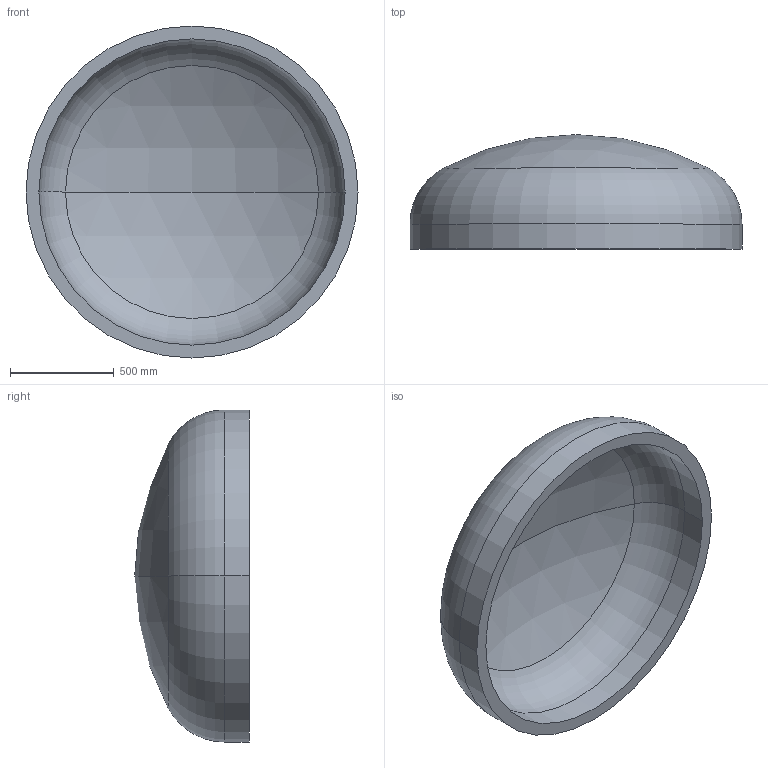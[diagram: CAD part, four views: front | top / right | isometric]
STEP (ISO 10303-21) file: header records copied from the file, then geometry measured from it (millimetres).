
FILE_DESCRIPTION (( 'STEP AP203' ), '1' );
FILE_NAME ('DIN 28013 Korbbogenform_-_Boden DIN 28013 - 1600 x 120 - I - s=62.step', '2016-07-01T11:22:07', ( '' ), ( '' ), 'SwSTEP 2.0', 'SolidWorks 2013', '' );
FILE_SCHEMA (( 'CONFIG_CONTROL_DESIGN' ));
Length unit declared in the file: millimetre
Products named in the file (1): DIN 28013 Korbbogenform_-_Boden DIN 28013 - 1600 x 120 - I - s=62
Bounding box: 1600 x 551.96 x 1600 mm (x, y, z)
Volume: 199946511 mm3; surface area: 6757506.2 mm2
Topology: 1 solids, 1 shells, 13 faces, 24 edges, 14 vertices
Faces by surface type: torus 4, cylinder 4, sphere 4, plane 1
Entity records: 407 total; most frequent: DIRECTION 72, CARTESIAN_POINT 52, ORIENTED_EDGE 48, AXIS2_PLACEMENT_3D 34, EDGE_CURVE 24, CIRCLE 20, VERTEX_POINT 14, EDGE_LOOP 14
